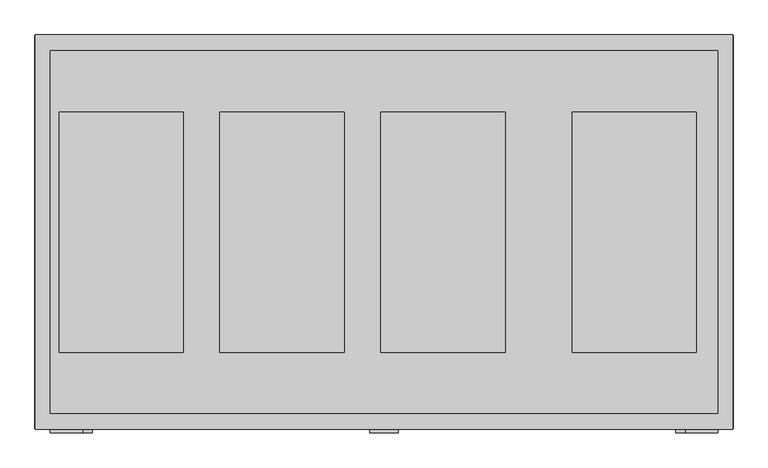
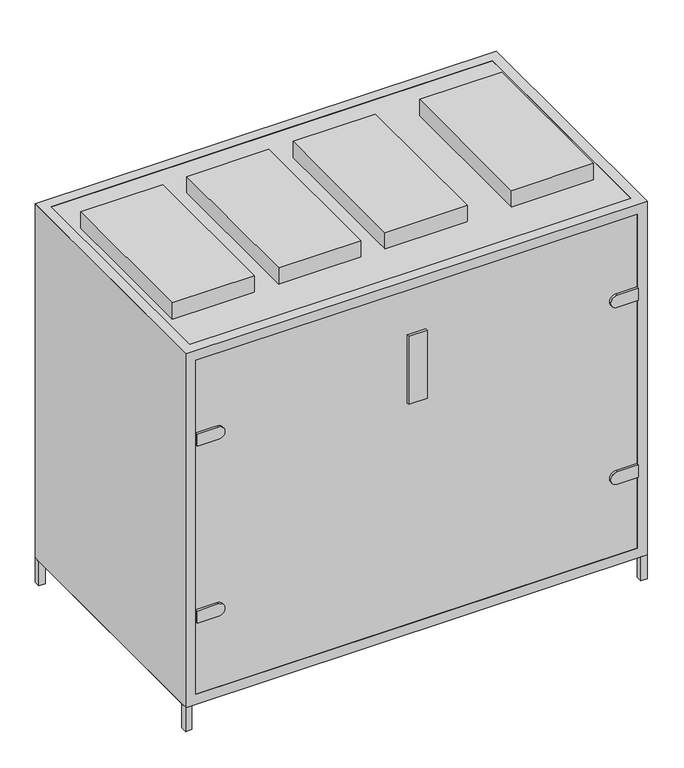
"""IFC4 building model written with IfcOpenShell, lengths in millimetres: proxy geometry, AVS 2200...3800-V-RC(RG) : AVS 3800-V-RG."""

from ifc_helpers import new_model, si_unit, point, frame, frame_2d, origin, origin_with_axes, place, context, project, spatial, polyline, circle_curve, trimmed, segment, composite_curve, outline, extrude, faceted_brep, source, transform, mapped, element, save


def mechanical_equipment_b11091fd(model_context):
    return source(origin(), model_context, "Body", "SolidModel", [
        extrude(outline(polyline([(875.0, 508.0), (900.0, 508.0), (900.0, 483.0), (875.0, 483.0), (875.0, 508.0)])), origin_with_axes(), (0.0, 0.0, 1.0), 100.0),
        extrude(outline(polyline([(875.0, -508.0), (875.0, -483.0), (900.0, -483.0), (900.0, -508.0), (875.0, -508.0)])), origin_with_axes(), (0.0, 0.0, 1.0), 100.0),
        extrude(outline(polyline([(-900.0, 483.0), (-900.0, 508.0), (-875.0, 508.0), (-875.0, 483.0), (-900.0, 483.0)])), origin_with_axes(), (0.0, 0.0, 1.0), 100.0),
        extrude(outline(polyline([(-900.0, -483.0), (-875.0, -483.0), (-875.0, -508.0), (-900.0, -508.0), (-900.0, -483.0)])), origin_with_axes(), (0.0, 0.0, 1.0), 100.0),
        faceted_brep([(899.0, 509.0, 1558.0), (-899.0, 509.0, 1558.0), (-899.0, -509.0, 1558.0), (899.0, -509.0, 1558.0), (-860.0, 468.0, 1558.0), (20.0, 468.0, 1558.0), (860.0, 468.0, 1558.0), (860.0, -468.0, 1558.0), (20.0, -468.0, 1558.0), (-860.0, -468.0, 1558.0), (899.0, 509.0, 99.0), (899.0, -509.0, 99.0), (-899.0, -509.0, 99.0), (-899.0, 509.0, 99.0), (20.0, 468.0, 99.0), (-860.0, 468.0, 99.0), (-860.0, -468.0, 99.0), (20.0, -468.0, 99.0), (860.0, -468.0, 99.0), (860.0, 468.0, 99.0), (20.0, 509.0, 1517.0), (-860.0, 509.0, 1517.0), (-860.0, 509.0, 140.0), (20.0, 509.0, 140.0), (860.0, 509.0, 140.0), (860.0, 509.0, 1517.0), (-899.0, -468.0, 1517.0), (-899.0, -468.0, 140.0), (-899.0, 468.0, 140.0), (-899.0, 468.0, 1517.0), (-860.0, -509.0, 1517.0), (20.0, -509.0, 1517.0), (860.0, -509.0, 1517.0), (860.0, -509.0, 140.0), (20.0, -509.0, 140.0), (-860.0, -509.0, 140.0), (-860.0, 468.0, 1517.0), (20.0, 468.0, 1517.0), (20.0, 468.0, 140.0), (-860.0, 468.0, 140.0), (20.0, -468.0, 1517.0), (-860.0, -468.0, 1517.0), (-860.0, -468.0, 140.0), (20.0, -468.0, 140.0), (860.0, 468.0, 1517.0), (860.0, -468.0, 1517.0), (860.0, -468.0, 140.0), (860.0, 468.0, 140.0), (866.0, -468.0, 1517.0), (866.0, 468.0, 1517.0), (866.0, 468.0, 140.0), (866.0, -468.0, 140.0)], [[[0, 1, 2, 3], [4, 5, 6, 7, 8, 9]], [[10, 11, 12, 13], [14, 15, 16, 17, 18, 19]], [[1, 0, 10, 13], [20, 21, 22, 23, 24, 25]], [[2, 1, 13, 12], [26, 27, 28, 29]], [[3, 2, 12, 11], [30, 31, 32, 33, 34, 35]], [[0, 3, 11, 10]], [[5, 4, 36, 37]], [[15, 14, 38, 39]], [[9, 8, 40, 41]], [[17, 16, 42, 43]], [[7, 6, 44, 45]], [[19, 18, 46, 47]], [[32, 45, 46, 33]], [[44, 25, 24, 47]], [[30, 41, 40, 31]], [[20, 37, 36, 21]], [[42, 35, 34, 43]], [[38, 23, 22, 39]], [[48, 49, 50, 51]], [[48, 51, 46, 45]], [[26, 41, 42, 27]], [[51, 50, 47, 46]], [[39, 28, 27, 42]], [[50, 49, 44, 47]], [[36, 29, 28, 39]], [[49, 48, 45, 44]], [[29, 36, 41, 26]], [[4, 9, 41, 36]], [[16, 15, 39, 42]], [[41, 30, 35, 42]], [[21, 36, 39, 22]], [[6, 5, 37, 44]], [[14, 19, 47, 38]], [[8, 7, 45, 40]], [[18, 17, 43, 46]], [[45, 32, 31, 40]], [[37, 20, 25, 44]], [[33, 46, 43, 34]], [[23, 38, 47, 24]]]),
        extrude(outline(polyline([(-900.0, 508.0), (900.0, 508.0), (900.0, -508.0), (-900.0, -508.0), (-900.0, 508.0)])), frame((0.0, 0.0, 100.0), z_axis=(0.0, 0.0, 1.0), x_axis=(1.0, 0.0, 0.0)), (0.0, 0.0, 1.0), 1457.0),
        extrude(outline(polyline([(-517.0, 310.0), (-517.0, -310.0), (-837.0, -310.0), (-837.0, 310.0), (-517.0, 310.0)])), frame((0.0, 0.0, 1557.0), z_axis=(0.0, 0.0, 1.0), x_axis=(1.0, 0.0, 0.0)), (0.0, 0.0, 1.0), 68.0),
        extrude(outline(polyline([(-103.0, 310.0), (-103.0, -310.0), (-423.0, -310.0), (-423.0, 310.0), (-103.0, 310.0)])), frame((0.0, 0.0, 1557.0), z_axis=(0.0, 0.0, 1.0), x_axis=(1.0, 0.0, 0.0)), (0.0, 0.0, 1.0), 68.0),
        extrude(outline(polyline([(312.0, 310.0), (312.0, -310.0), (-8.0, -310.0), (-8.0, 310.0), (312.0, 310.0)])), frame((0.0, 0.0, 1557.0), z_axis=(0.0, 0.0, 1.0), x_axis=(1.0, 0.0, 0.0)), (0.0, 0.0, 1.0), 68.0),
        extrude(outline(polyline([(805.0, 310.0), (805.0, -310.0), (485.0, -310.0), (485.0, 310.0), (805.0, 310.0)])), frame((0.0, 0.0, 1557.0), z_axis=(0.0, 0.0, 1.0), x_axis=(1.0, 0.0, 0.0)), (0.0, 0.0, 1.0), 68.0),
        extrude(outline(composite_curve([segment(polyline([(1217.75, -777.2895396), (1217.75, -860.0), (1167.75, -860.0), (1167.75, -777.2895396)]), True, "CONTINUOUS"), segment(trimmed(circle_curve(frame_2d((1192.75, -777.2895396)), 25.0), [point((1167.75, -777.2895396))], [point((1217.75, -777.2895396))], False, "CARTESIAN"), True, "CONTINUOUS")], self_intersect=False)), frame((0.0, -518.0, 0.0), z_axis=(0.0, 1.0, 0.0), x_axis=(0.0, 0.0, 1.0)), (0.0, 0.0, 1.0), 10.0),
        extrude(outline(composite_curve([segment(polyline([(489.25, -777.2895396), (489.25, -860.0), (439.25, -860.0), (439.25, -777.2895396)]), True, "CONTINUOUS"), segment(trimmed(circle_curve(frame_2d((464.25, -777.2895396)), 25.0), [point((439.25, -777.2895396))], [point((489.25, -777.2895396))], False, "CARTESIAN"), True, "CONTINUOUS")], self_intersect=False)), frame((0.0, -518.0, 0.0), z_axis=(0.0, 1.0, 0.0), x_axis=(0.0, 0.0, 1.0)), (0.0, 0.0, 1.0), 10.0),
        extrude(outline(polyline([(36.159373, -518.0), (-36.159373, -518.0), (-36.159373, -508.0), (36.159373, -508.0), (36.159373, -518.0)])), frame((0.0, 0.0, 1052.0590991), z_axis=(0.0, 0.0, 1.0), x_axis=(1.0, 0.0, 0.0)), (0.0, 0.0, 1.0), 281.3818018),
        extrude(outline(composite_curve([segment(trimmed(circle_curve(frame_2d((1192.75, 777.2895396)), 25.0), [point((1217.75, 777.2895396))], [point((1167.75, 777.2895396))], False, "CARTESIAN"), True, "CONTINUOUS"), segment(polyline([(1167.75, 777.2895396), (1167.75, 860.0), (1217.75, 860.0), (1217.75, 777.2895396)]), True, "CONTINUOUS")], self_intersect=False)), frame((0.0, -518.0, 0.0), z_axis=(0.0, 1.0, 0.0), x_axis=(0.0, 0.0, 1.0)), (0.0, 0.0, 1.0), 10.0),
        extrude(outline(composite_curve([segment(trimmed(circle_curve(frame_2d((464.25, 777.2895396)), 25.0), [point((489.25, 777.2895396))], [point((439.25, 777.2895396))], False, "CARTESIAN"), True, "CONTINUOUS"), segment(polyline([(439.25, 777.2895396), (439.25, 860.0), (489.25, 860.0), (489.25, 777.2895396)]), True, "CONTINUOUS")], self_intersect=False)), frame((0.0, -518.0, 0.0), z_axis=(0.0, 1.0, 0.0), x_axis=(0.0, 0.0, 1.0)), (0.0, 0.0, 1.0), 10.0),
    ])


if __name__ == "__main__":
    model = new_model("IFC4")
    model_context = context("Model", 3, world=origin())
    ifc_project = project(units=[si_unit("LENGTHUNIT", "METRE", prefix="MILLI")], contexts=[model_context])
    site = spatial("IfcSite", under=ifc_project)
    building = spatial("IfcBuilding", under=site)
    placement = place(None, origin())
    mechanical_equipment_shape = mechanical_equipment_b11091fd(model_context)
    element("IfcBuildingElementProxy", 1, Name="AVS 2200...3800-V-RC(RG) : AVS 3800-V-RG", ObjectType="AVS 2200...3800-V-RC(RG) : AVS 3800-V-RG", at=placement, inside=building, context=model_context, shape_type="MappedRepresentation", body=[
        mapped(mechanical_equipment_shape, transform((0.0, 0.0, 0.0), x_axis=(1.0, 0.0, 0.0), y_axis=(0.0, 1.0, 0.0), z_axis=(0.0, 0.0, 1.0))),
    ])
    save(model, "model.ifc")
